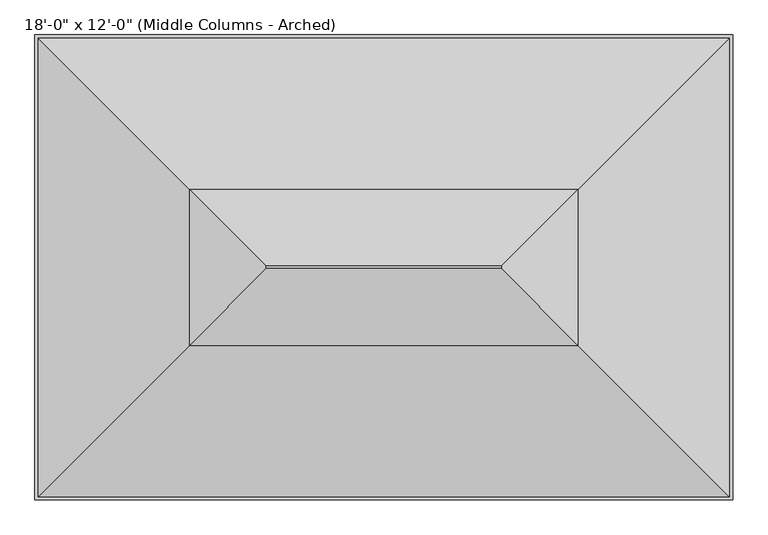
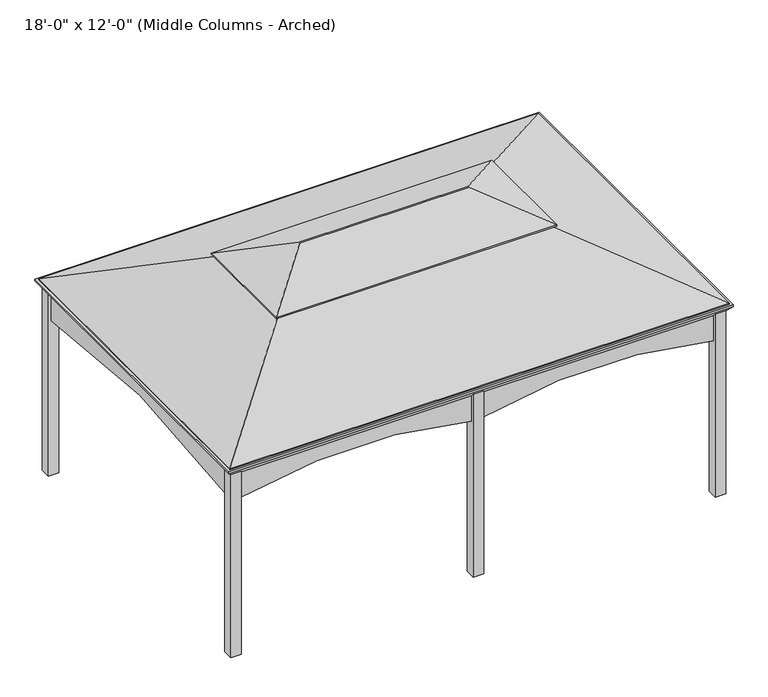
"""IFC4 building model written with IfcOpenShell, lengths in millimetres: proxy geometry."""

from ifc_helpers import new_model, si_unit, point, frame, frame_2d, origin, place, context, project, spatial, polyline, circle_curve, trimmed, segment, composite_curve, outline, extrude, faceted_brep, source, transform, mapped, element, save


def proxy_496701cc(model_context):
    return source(origin(), model_context, "Body", "SolidModel", [
        extrude(outline(composite_curve([segment(polyline([(2082.8, -2578.1), (1778.0, -2578.1)]), True, "CONTINUOUS"), segment(trimmed(circle_curve(frame_2d((-3358.3893229, -1317.625)), 5288.7893229), [point((1778.0, -2578.1))], [point((1778.0, -57.15))], True, "CARTESIAN"), True, "CONTINUOUS"), segment(polyline([(1778.0, -57.15), (2082.8, -57.15), (2082.8, -2578.1)]), True, "CONTINUOUS")], self_intersect=False)), frame((0.0, -1746.25, 0.0), z_axis=(0.0, 1.0, 0.0), x_axis=(0.0, 0.0, 1.0)), (0.0, 0.0, 1.0), 25.4),
        extrude(outline(composite_curve([segment(polyline([(2082.8, 2578.1), (2082.8, 57.15), (1778.0, 57.15)]), True, "CONTINUOUS"), segment(trimmed(circle_curve(frame_2d((-3358.3893229, 1317.625)), 5288.7893229), [point((1778.0, 57.15))], [point((1778.0, 2578.1))], True, "CARTESIAN"), True, "CONTINUOUS"), segment(polyline([(1778.0, 2578.1), (2082.8, 2578.1)]), True, "CONTINUOUS")], self_intersect=False)), frame((0.0, -1746.25, 0.0), z_axis=(0.0, 1.0, 0.0), x_axis=(0.0, 0.0, 1.0)), (0.0, 0.0, 1.0), 25.4),
        extrude(outline(composite_curve([segment(polyline([(2082.8, -2578.1), (1778.0, -2578.1)]), True, "CONTINUOUS"), segment(trimmed(circle_curve(frame_2d((-3358.3893229, -1317.625)), 5288.7893229), [point((1778.0, -2578.1))], [point((1778.0, -57.15))], True, "CARTESIAN"), True, "CONTINUOUS"), segment(polyline([(1778.0, -57.15), (2082.8, -57.15), (2082.8, -2578.1)]), True, "CONTINUOUS")], self_intersect=False)), frame((0.0, 1720.85, 0.0), z_axis=(0.0, 1.0, 0.0), x_axis=(0.0, 0.0, 1.0)), (0.0, 0.0, 1.0), 25.4),
        extrude(outline(composite_curve([segment(polyline([(2082.8, 2578.1), (2082.8, 57.15), (1778.0, 57.15)]), True, "CONTINUOUS"), segment(trimmed(circle_curve(frame_2d((-3358.3893229, 1317.625)), 5288.7893229), [point((1778.0, 57.15))], [point((1778.0, 2578.1))], True, "CARTESIAN"), True, "CONTINUOUS"), segment(polyline([(1778.0, 2578.1), (2082.8, 2578.1)]), True, "CONTINUOUS")], self_intersect=False)), frame((0.0, 1720.85, 0.0), z_axis=(0.0, 1.0, 0.0), x_axis=(0.0, 0.0, 1.0)), (0.0, 0.0, 1.0), 25.4),
        extrude(outline(composite_curve([segment(polyline([(1663.7, 2082.8), (1663.7, 1778.0)]), True, "CONTINUOUS"), segment(trimmed(circle_curve(frame_2d((0.0, -7226.8291667)), 9157.2291667), [point((1663.7, 1778.0))], [point((-1663.7, 1778.0))], True, "CARTESIAN"), True, "CONTINUOUS"), segment(polyline([(-1663.7, 1778.0), (-1663.7, 2082.8), (1663.7, 2082.8)]), True, "CONTINUOUS")], self_intersect=False)), frame((2635.25, 0.0, 0.0), z_axis=(1.0, 0.0, 0.0), x_axis=(0.0, 1.0, 0.0)), (0.0, 0.0, 1.0), 25.4),
        extrude(outline(composite_curve([segment(polyline([(1663.7, 2082.8), (1663.7, 1778.0)]), True, "CONTINUOUS"), segment(trimmed(circle_curve(frame_2d((0.0, -7226.8291667)), 9157.2291667), [point((1663.7, 1778.0))], [point((-1663.7, 1778.0))], True, "CARTESIAN"), True, "CONTINUOUS"), segment(polyline([(-1663.7, 1778.0), (-1663.7, 2082.8), (1663.7, 2082.8)]), True, "CONTINUOUS")], self_intersect=False)), frame((-2660.65, 0.0, 0.0), z_axis=(1.0, 0.0, 0.0), x_axis=(0.0, 1.0, 0.0)), (0.0, 0.0, 1.0), 25.4),
        faceted_brep([(2743.2, -1828.8, 2184.4), (2743.2, 1828.8, 2184.4), (-2743.2, 1828.8, 2184.4), (-2743.2, -1828.8, 2184.4), (2578.1, 1663.7, 2184.4), (2635.25, 1663.7, 2184.4), (2635.25, -1663.7, 2184.4), (2578.1, -1663.7, 2184.4), (2578.1, -1720.85, 2184.4), (-2578.1, -1720.85, 2184.4), (-2578.1, -1663.7, 2184.4), (-2635.25, -1663.7, 2184.4), (-2635.25, 1663.7, 2184.4), (-2578.1, 1663.7, 2184.4), (-2578.1, 1720.85, 2184.4), (2578.1, 1720.85, 2184.4), (2578.1, 1663.7, 0.0), (2578.1, 1778.0, 0.0), (2692.4, 1778.0, 0.0), (2692.4, 1663.7, 0.0), (2692.4, 1663.7, 2105.3136364), (2673.35, 1663.7, 2082.8), (2635.25, 1663.7, 2082.8), (2692.4, 1778.0, 2105.3136364), (2578.1, 1778.0, 2105.3136364), (2578.1, 1720.85, 2082.8), (2578.1, 1758.95, 2082.8), (2673.35, -1663.7, 2082.8), (2635.25, -1663.7, 2082.8), (-2578.1, 1720.85, 2082.8), (-2578.1, 1758.95, 2082.8), (2578.1, -1720.85, 2082.8), (2578.1, -1758.95, 2082.8), (-2578.1, -1758.95, 2082.8), (-2578.1, -1720.85, 2082.8), (-2635.25, -1663.7, 2082.8), (-2673.35, -1663.7, 2082.8), (-2673.35, 1663.7, 2082.8), (-2635.25, 1663.7, 2082.8), (2743.2, 1828.8, 2165.35), (2743.2, -1828.8, 2165.35), (-2743.2, -1828.8, 2165.35), (-2743.2, 1828.8, 2165.35), (2692.4, -1663.7, 0.0), (2692.4, -1778.0, 0.0), (2578.1, -1778.0, 0.0), (2578.1, -1663.7, 0.0), (2692.4, -1663.7, 2105.3136364), (2578.1, -1778.0, 2105.3136364), (2692.4, -1778.0, 2105.3136364), (-2578.1, -1663.7, 0.0), (-2578.1, -1778.0, 0.0), (-2692.4, -1778.0, 0.0), (-2692.4, -1663.7, 0.0), (-2692.4, -1663.7, 2105.3136364), (-2692.4, -1778.0, 2105.3136364), (-2578.1, -1778.0, 2105.3136364), (-2692.4, 1663.7, 0.0), (-2692.4, 1778.0, 0.0), (-2578.1, 1778.0, 0.0), (-2578.1, 1663.7, 0.0), (-2692.4, 1663.7, 2105.3136364), (-2578.1, 1778.0, 2105.3136364), (-2692.4, 1778.0, 2105.3136364)], [[[0, 1, 2, 3], [4, 5, 6, 7, 8, 9, 10, 11, 12, 13, 14, 15]], [[16, 17, 18, 19]], [[16, 19, 20, 21, 22, 5, 4]], [[19, 18, 23, 20]], [[18, 17, 24, 23]], [[17, 16, 4, 15, 25, 26, 24]], [[22, 21, 27, 28]], [[26, 25, 29, 30]], [[31, 32, 33, 34]], [[35, 36, 37, 38]], [[25, 15, 14, 29]], [[39, 1, 0, 40]], [[40, 0, 3, 41]], [[41, 3, 2, 42]], [[1, 39, 42, 2]], [[43, 44, 45, 46]], [[43, 46, 7, 6, 28, 27, 47]], [[46, 45, 48, 32, 31, 8, 7]], [[45, 44, 49, 48]], [[44, 43, 47, 49]], [[50, 51, 52, 53]], [[50, 53, 54, 36, 35, 11, 10]], [[53, 52, 55, 54]], [[52, 51, 56, 55]], [[51, 50, 10, 9, 34, 33, 56]], [[57, 58, 59, 60]], [[57, 60, 13, 12, 38, 37, 61]], [[60, 59, 62, 30, 29, 14, 13]], [[59, 58, 63, 62]], [[58, 57, 61, 63]], [[5, 22, 28, 6]], [[8, 31, 34, 9]], [[11, 35, 38, 12]], [[39, 40, 49, 47, 27, 21, 20, 23]], [[40, 41, 55, 56, 33, 32, 48, 49]], [[41, 42, 63, 61, 37, 36, 54, 55]], [[42, 39, 23, 24, 26, 30, 62, 63]]]),
        extrude(outline(polyline([(1778.0, 0.0), (1663.7, 0.0), (1663.7, 2184.4), (1720.85, 2184.4), (1720.85, 2082.8), (1758.95, 2082.8), (1778.0, 2105.3136364), (1778.0, 0.0)])), frame((-57.15, 0.0, 0.0), z_axis=(1.0, 0.0, 0.0), x_axis=(0.0, 1.0, 0.0)), (0.0, 0.0, 1.0), 114.3),
        extrude(outline(polyline([(-1663.7, 0.0), (-1778.0, 0.0), (-1778.0, 2105.3136364), (-1758.95, 2082.8), (-1720.85, 2082.8), (-1720.85, 2184.4), (-1663.7, 2184.4), (-1663.7, 0.0)])), frame((-57.15, 0.0, 0.0), z_axis=(1.0, 0.0, 0.0), x_axis=(0.0, 1.0, 0.0)), (0.0, 0.0, 1.0), 114.3),
        faceted_brep([(924.5541406, 10.1541406, 3073.4), (-924.5541406, 10.1541406, 3073.4), (-924.5541406, -10.1541406, 3073.4), (924.5541406, -10.1541406, 3073.4), (-1528.0581406, 613.6581406, 2794.0), (-1528.0581406, -613.6581406, 2794.0), (1528.0581406, -613.6581406, 2794.0), (1528.0581406, 613.6581406, 2794.0), (1528.0581406, 613.6581406, 2781.3), (1528.0581406, -613.6581406, 2781.3), (-1528.0581406, -613.6581406, 2781.3), (-1528.0581406, 613.6581406, 2781.3), (924.5541406, 10.1541406, 3060.7), (924.5541406, -10.1541406, 3060.7), (-924.5541406, -10.1541406, 3060.7), (-924.5541406, 10.1541406, 3060.7)], [[[0, 1, 2, 3]], [[2, 1, 4, 5]], [[0, 3, 6, 7]], [[8, 7, 6, 9]], [[9, 6, 5, 10]], [[10, 5, 4, 11]], [[7, 8, 11, 4]], [[12, 13, 14, 15]], [[15, 14, 10, 11]], [[13, 12, 8, 9]], [[1, 0, 7, 4]], [[3, 2, 5, 6]], [[12, 15, 11, 8]], [[14, 13, 9, 10]]]),
        faceted_brep([(-2717.7941406, 1803.3941406, 2197.1), (-1401.0581406, 486.6581406, 2806.7), (1401.0581406, 486.6581406, 2806.7), (2717.7941406, 1803.3941406, 2197.1), (-2717.7941406, -1803.3941406, 2197.1), (-1401.0581406, -486.6581406, 2806.7), (2717.7941406, -1803.3941406, 2197.1), (1401.0581406, -486.6581406, 2806.7), (2717.7941406, 1803.3941406, 2184.4), (2717.7941406, -1803.3941406, 2184.4), (-2717.7941406, -1803.3941406, 2184.4), (-2717.7941406, 1803.3941406, 2184.4), (1401.0581406, 486.6581406, 2794.0), (-1401.0581406, 486.6581406, 2794.0), (-1401.0581406, -486.6581406, 2794.0), (1401.0581406, -486.6581406, 2794.0)], [[[0, 1, 2, 3]], [[1, 0, 4, 5]], [[5, 4, 6, 7]], [[3, 2, 7, 6]], [[8, 3, 6, 9]], [[9, 6, 4, 10]], [[10, 4, 0, 11]], [[3, 8, 11, 0]], [[8, 12, 13, 11]], [[11, 13, 14, 10]], [[10, 14, 15, 9]], [[12, 8, 9, 15]], [[7, 2, 12, 15]], [[5, 7, 15, 14]], [[1, 5, 14, 13]], [[2, 1, 13, 12]]]),
    ])


if __name__ == "__main__":
    model = new_model("IFC4")
    model_context = context("Model", 3, world=origin())
    ifc_project = project(units=[si_unit("LENGTHUNIT", "METRE", prefix="MILLI")], contexts=[model_context])
    site = spatial("IfcSite", under=ifc_project)
    building = spatial("IfcBuilding", under=site)
    placement = place(None, origin())
    proxy_shape = proxy_496701cc(model_context)
    element("IfcBuildingElementProxy", 1, Name="Gazebo : 18'-0\" x 12'-0\" (Middle Columns - Arched)", ObjectType="Gazebo : 18'-0\" x 12'-0\" (Middle Columns - Arched)", at=placement, inside=building, context=model_context, shape_type="MappedRepresentation", body=[
        mapped(proxy_shape, transform((0.0, 0.0, 0.0), x_axis=(1.0, 0.0, 0.0), y_axis=(0.0, 1.0, 0.0), z_axis=(0.0, 0.0, 1.0))),
    ])
    save(model, "model.ifc")
